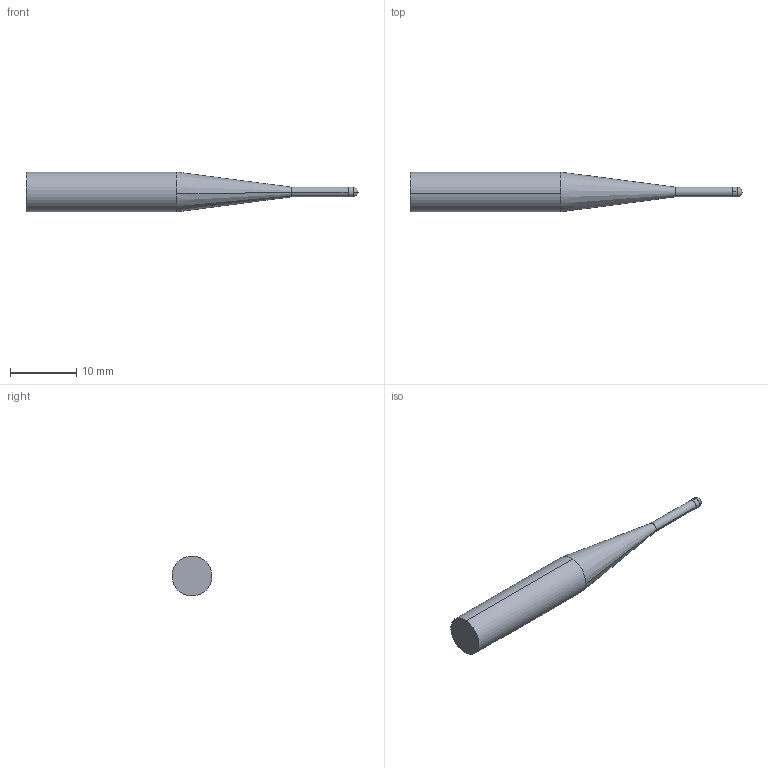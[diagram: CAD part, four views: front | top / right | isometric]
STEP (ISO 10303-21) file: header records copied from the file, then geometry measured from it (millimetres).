
FILE_DESCRIPTION (( 'STEP AP214' ), '1' );
FILE_NAME ('HM70xBN20015.STEP', '2025-05-20T15:00:56', ( '' ), ( '' ), 'SwSTEP 2.0', 'SolidWorks 2023', '' );
FILE_SCHEMA (( 'AUTOMOTIVE_DESIGN' ));
Length unit declared in the file: millimetre
Products named in the file (3): HM70xBN OD ONLY_HM70xBN20015; HM70xBN SHANK ONLY_HM70xBN20015; HM70xBN20015
Assembly tree (2 placements, depth 2):
  HM70xBN20015
    HM70xBN OD ONLY_HM70xBN20015
    HM70xBN SHANK ONLY_HM70xBN20015
Bounding box: 50 x 5.98 x 5.98 mm (x, y, z)
Volume: 870.4 mm3; surface area: 709.7 mm2
Topology: 2 solids, 2 shells, 13 faces, 28 edges, 17 vertices
Faces by surface type: cylinder 6, plane 3, sphere 2, cone 2
Entity records: 438 total; most frequent: DIRECTION 80, CARTESIAN_POINT 61, ORIENTED_EDGE 52, AXIS2_PLACEMENT_3D 36, EDGE_CURVE 26, CIRCLE 18, VERTEX_POINT 17, EDGE_LOOP 13
